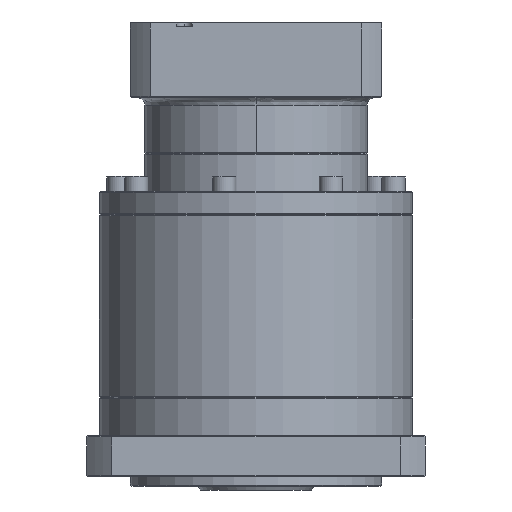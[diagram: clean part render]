
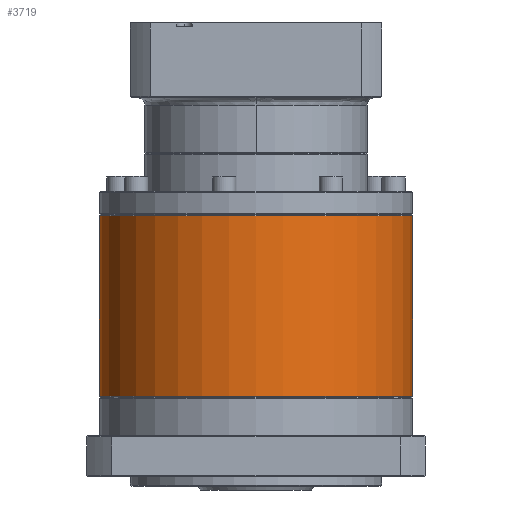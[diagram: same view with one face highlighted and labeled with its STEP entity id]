
A CAD part, front view. The second image highlights one B-rep face of the part: STEP entity #3719.
In plain terms, the highlighted cylindrical face has radius 81 mm (diameter 162 mm), a partial arc.
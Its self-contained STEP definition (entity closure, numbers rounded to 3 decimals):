
#1578 = EDGE_CURVE ( 'NONE', #40950, #136862, #95794, .T. ) ;
#3719 = ADVANCED_FACE ( 'NONE', ( #39751 ), #113435, .T. ) ;
#11320 = CARTESIAN_POINT ( 'NONE',  ( -203.072, 75.264, -220.734 ) ) ;
#17363 = DIRECTION ( 'NONE',  ( 0., 0., 1. ) ) ;
#20412 = VERTEX_POINT ( 'NONE', #84935 ) ;
#28158 = DIRECTION ( 'NONE',  ( -1., 0., 0. ) ) ;
#32637 = AXIS2_PLACEMENT_3D ( 'NONE', #136946, #82607, #93317 ) ;
#33159 = DIRECTION ( 'NONE',  ( 0., 0., -1. ) ) ;
#39751 = FACE_OUTER_BOUND ( 'NONE', #88057, .T. ) ;
#40950 = VERTEX_POINT ( 'NONE', #57136 ) ;
#43092 = VECTOR ( 'NONE', #120638, 1000. ) ;
#47669 = DIRECTION ( 'NONE',  ( 0., 0., -1. ) ) ;
#50768 = ORIENTED_EDGE ( 'NONE', *, *, #112660, .T. ) ;
#57136 = CARTESIAN_POINT ( 'NONE',  ( -41.072, 75.264, -127.234 ) ) ;
#60307 = CIRCLE ( 'NONE', #87916, 81. ) ;
#62833 = AXIS2_PLACEMENT_3D ( 'NONE', #69725, #47669, #132927 ) ;
#65892 = ORIENTED_EDGE ( 'NONE', *, *, #66381, .F. ) ;
#66376 = CARTESIAN_POINT ( 'NONE',  ( -41.072, 75.264, -126.734 ) ) ;
#66381 = EDGE_CURVE ( 'NONE', #40950, #20412, #123633, .T. ) ;
#69725 = CARTESIAN_POINT ( 'NONE',  ( -122.072, 75.264, -126.734 ) ) ;
#82607 = DIRECTION ( 'NONE',  ( 0., 0., -1. ) ) ;
#84750 = ORIENTED_EDGE ( 'NONE', *, *, #1578, .T. ) ;
#84935 = CARTESIAN_POINT ( 'NONE',  ( -41.072, 75.264, -220.734 ) ) ;
#85401 = EDGE_CURVE ( 'NONE', #126321, #20412, #60307, .T. ) ;
#87916 = AXIS2_PLACEMENT_3D ( 'NONE', #135500, #17363, #28158 ) ;
#88057 = EDGE_LOOP ( 'NONE', ( #65892, #84750, #50768, #104589 ) ) ;
#91780 = CARTESIAN_POINT ( 'NONE',  ( -203.072, 75.264, -127.234 ) ) ;
#93317 = DIRECTION ( 'NONE',  ( -1., 0., 0. ) ) ;
#95195 = VECTOR ( 'NONE', #33159, 1000. ) ;
#95794 = CIRCLE ( 'NONE', #32637, 81. ) ;
#103537 = LINE ( 'NONE', #119875, #95195 ) ;
#104589 = ORIENTED_EDGE ( 'NONE', *, *, #85401, .T. ) ;
#112660 = EDGE_CURVE ( 'NONE', #136862, #126321, #103537, .T. ) ;
#113435 = CYLINDRICAL_SURFACE ( 'NONE', #62833, 81. ) ;
#119875 = CARTESIAN_POINT ( 'NONE',  ( -203.072, 75.264, -126.734 ) ) ;
#120638 = DIRECTION ( 'NONE',  ( 0., 0., -1. ) ) ;
#123633 = LINE ( 'NONE', #66376, #43092 ) ;
#126321 = VERTEX_POINT ( 'NONE', #11320 ) ;
#132927 = DIRECTION ( 'NONE',  ( -1., 0., 0. ) ) ;
#135500 = CARTESIAN_POINT ( 'NONE',  ( -122.072, 75.264, -220.734 ) ) ;
#136862 = VERTEX_POINT ( 'NONE', #91780 ) ;
#136946 = CARTESIAN_POINT ( 'NONE',  ( -122.072, 75.264, -127.234 ) ) ;
